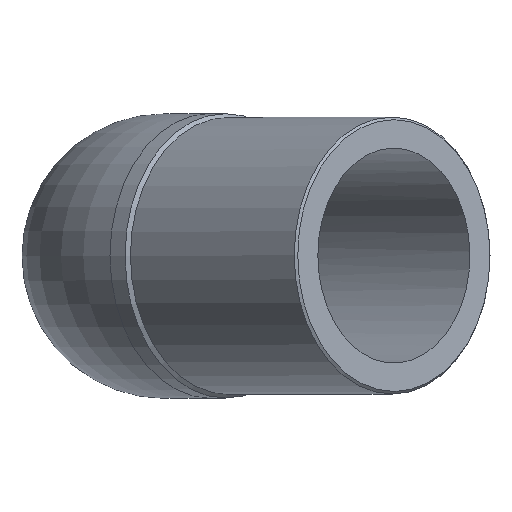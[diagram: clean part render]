
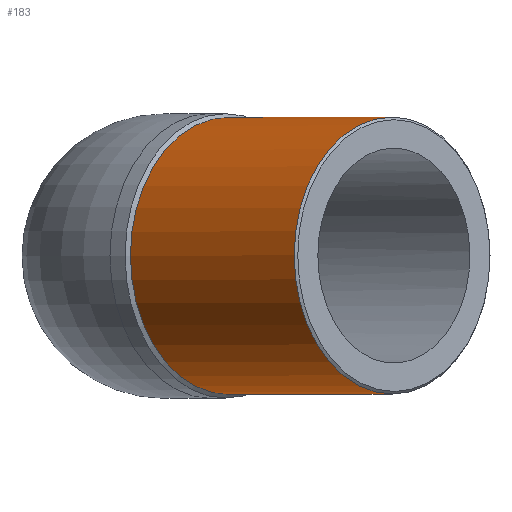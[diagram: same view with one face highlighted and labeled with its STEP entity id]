
A CAD part, top view. The second image highlights one B-rep face of the part: STEP entity #183.
In plain terms, the highlighted cylindrical face has radius 55 mm (diameter 110 mm), a full revolution.
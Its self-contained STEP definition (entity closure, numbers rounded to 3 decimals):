
#29=CYLINDRICAL_SURFACE('',#212,55.);
#37=ORIENTED_EDGE('',*,*,#75,.T.);
#38=ORIENTED_EDGE('',*,*,#73,.F.);
#73=EDGE_CURVE('',#92,#92,#110,.T.);
#75=EDGE_CURVE('',#94,#94,#112,.T.);
#92=VERTEX_POINT('',#301);
#94=VERTEX_POINT('',#306);
#110=CIRCLE('',#210,55.);
#112=CIRCLE('',#213,55.);
#126=EDGE_LOOP('',(#37));
#127=EDGE_LOOP('',(#38));
#153=FACE_BOUND('',#126,.T.);
#154=FACE_BOUND('',#127,.T.);
#183=ADVANCED_FACE('',(#153,#154),#29,.T.);
#210=AXIS2_PLACEMENT_3D('',#300,#242,#243);
#212=AXIS2_PLACEMENT_3D('',#304,#246,#247);
#213=AXIS2_PLACEMENT_3D('',#305,#248,#249);
#242=DIRECTION('',(-0.707,0.,-0.707));
#243=DIRECTION('',(-0.707,0.,0.707));
#246=DIRECTION('',(0.707,0.,0.707));
#247=DIRECTION('',(-0.707,0.,0.707));
#248=DIRECTION('',(-0.707,0.,-0.707));
#249=DIRECTION('',(-0.707,0.,0.707));
#300=CARTESIAN_POINT('',(25.456,0.,25.456));
#301=CARTESIAN_POINT('',(-13.435,0.,64.347));
#304=CARTESIAN_POINT('',(176.777,0.,176.777));
#305=CARTESIAN_POINT('',(90.51,0.,90.51));
#306=CARTESIAN_POINT('',(51.619,0.,129.401));
